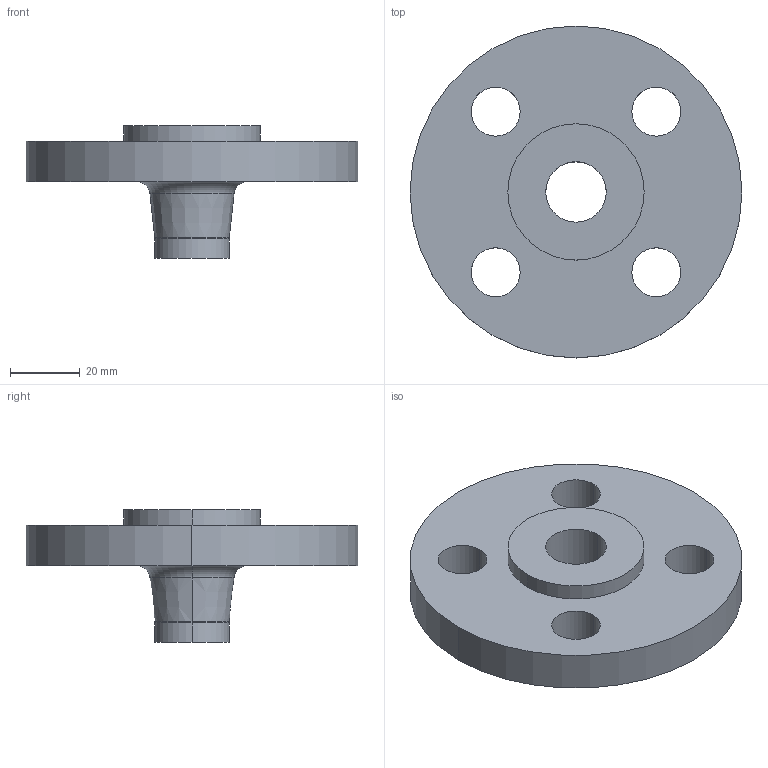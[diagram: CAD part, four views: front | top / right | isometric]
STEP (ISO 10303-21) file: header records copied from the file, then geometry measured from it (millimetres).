
FILE_DESCRIPTION (( 'STEP AP214' ), '1' );
FILE_NAME ('PN40 DN15 Type 11 - Type E Face.STEP', '2018-12-29T15:03:27', ( '' ), ( '' ), 'SwSTEP 2.0', 'SolidWorks 2019', '' );
FILE_SCHEMA (( 'AUTOMOTIVE_DESIGN' ));
Length unit declared in the file: millimetre
Products named in the file (1): PN40 DN15 Type 11 - Type E Face
Bounding box: 95 x 95 x 38 mm (x, y, z)
Volume: 79942.7 mm3; surface area: 21890.6 mm2
Topology: 1 solids, 1 shells, 26 faces, 60 edges, 38 vertices
Faces by surface type: cylinder 16, torus 4, plane 4, cone 2
Entity records: 812 total; most frequent: DIRECTION 156, CARTESIAN_POINT 125, ORIENTED_EDGE 120, AXIS2_PLACEMENT_3D 69, EDGE_CURVE 60, CIRCLE 42, EDGE_LOOP 38, VERTEX_POINT 38
